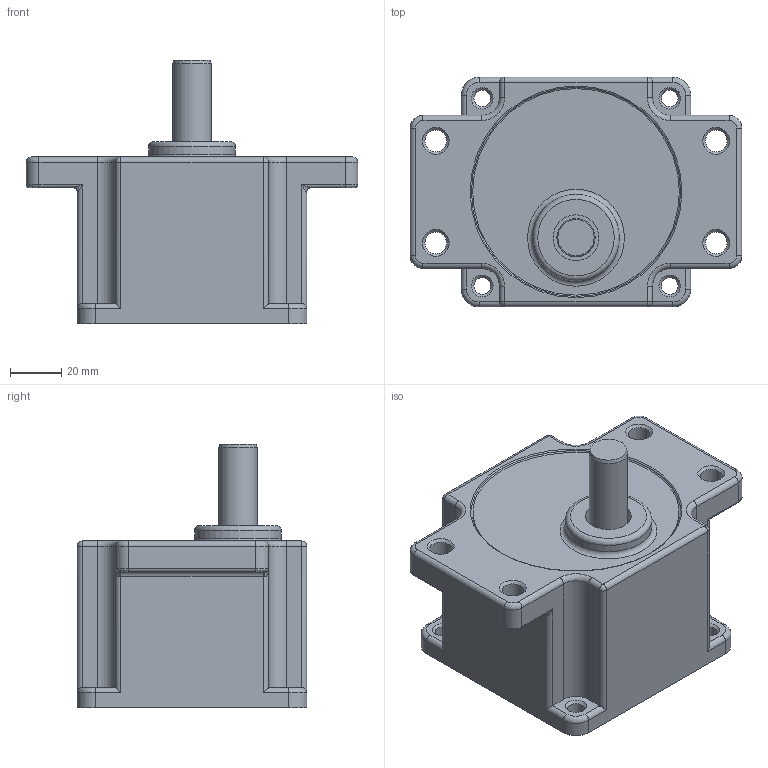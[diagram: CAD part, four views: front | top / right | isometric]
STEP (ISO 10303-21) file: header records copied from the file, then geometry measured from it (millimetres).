
FILE_DESCRIPTION((''),'2;1');
FILE_NAME('D:\STP파일\GEAR HEAD\60W\S9SC3~200-S.stp','2013-05-20T19:20:10',('leebh'),(''),'Autodesk Inventor 2011','Autodesk Inventor 2011','');
FILE_SCHEMA(('AUTOMOTIVE_DESIGN { 1 0 10303 214 1 1 1 1 }'));
Length unit declared in the file: millimetre
Products named in the file (1): S9I90G-T1
Bounding box: 130 x 90 x 103.5 mm (x, y, z)
Volume: 489262.3 mm3; surface area: 49528.6 mm2
Topology: 2 solids, 2 shells, 139 faces, 314 edges, 176 vertices
Faces by surface type: cylinder 61, plane 29, torus 24, cone 17, bspline 4, sphere 4
Full cylindrical faces by diameter (mm): 6.5 x4, 8.5 x4, 12 x1, 15 x1, 18 x1, 34 x1, 83 x1
Entity records: 3928 total; most frequent: CARTESIAN_POINT 870, DIRECTION 692, ORIENTED_EDGE 544, AXIS2_PLACEMENT_3D 292, EDGE_CURVE 272, EDGE_LOOP 194, VERTEX_POINT 176, CIRCLE 148
